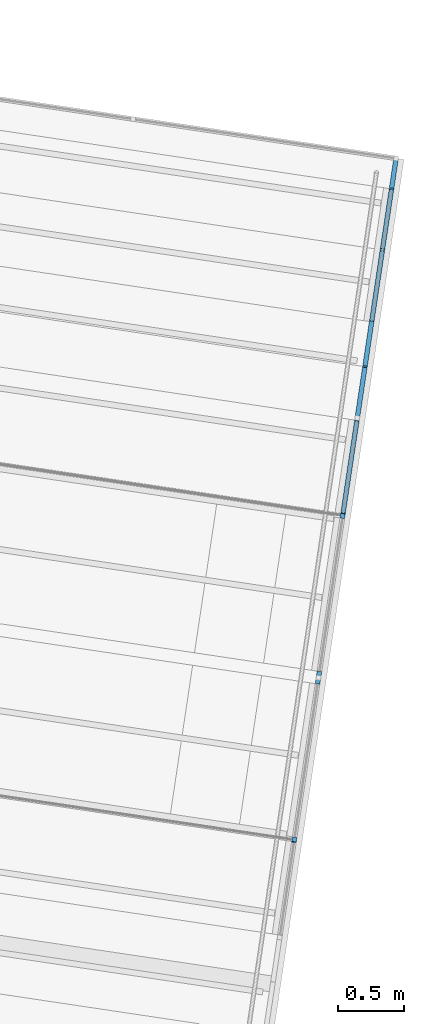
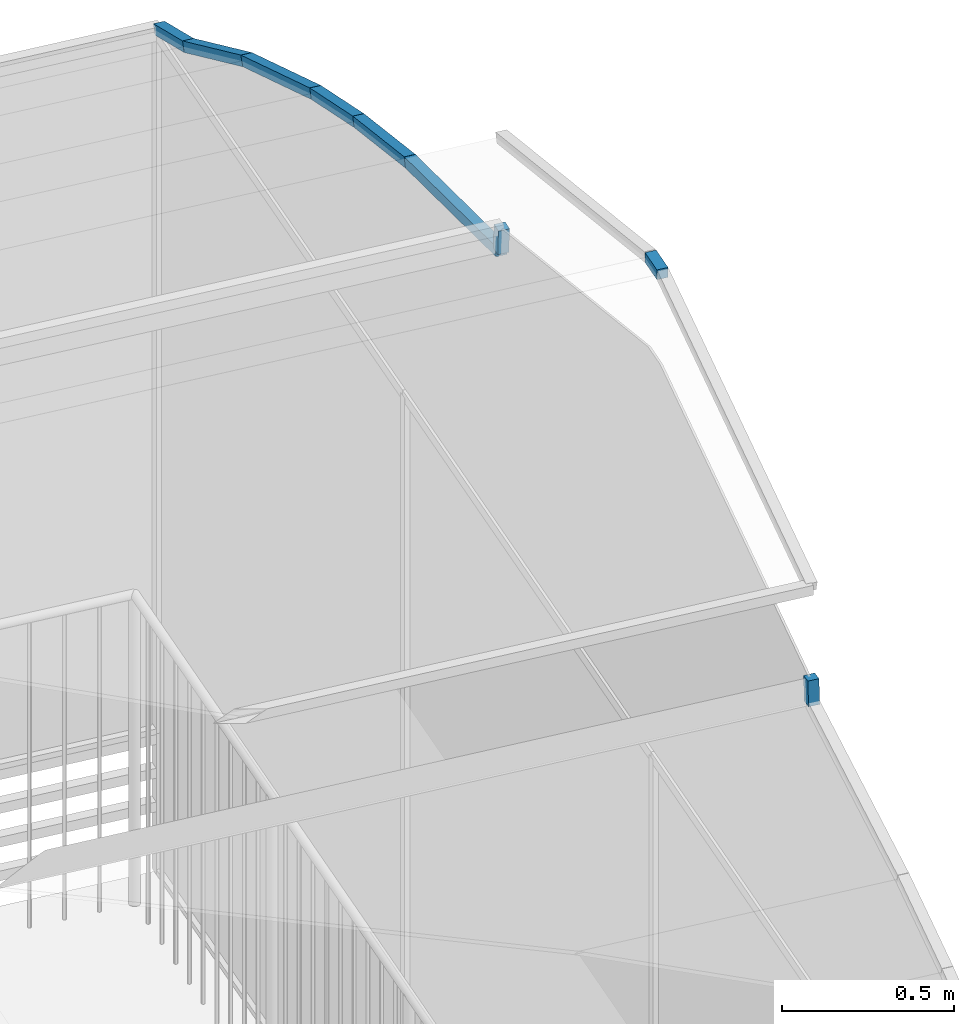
# One storey, part 24 of 34: 9 members, 1 element without a shape of its own.
"""IFC4 building model written with IfcOpenShell, lengths in metres."""

import ifcopenshell
import ifcopenshell.guid

model = None  # the IFC model being written
_history = None  # IfcOwnerHistory: only IFC2X3 demands one
_inside = {}  # id of a spatial element -> (the spatial element, [elements in it])
_under = {}  # id of a project, library or spatial element -> (it, [spatial elements below it])
_declared = {}  # id of a project -> (the project, [libraries it declares])
_typed = {}  # id of a type object -> (the type object, [elements of that type])
_made_of = {}  # id of a material, layer set ... -> (it, [elements and type objects made of it])


def new_model(schema):
    """Start an empty IFC model of exactly this schema.

    Asked for "IFC4X3", IfcOpenShell would pick the latest addendum, in which some entities
    have other attributes; the version numbers below select the first issue.
    IFC2X3 requires an IfcOwnerHistory on every rooted entity: one is made here for all.
    """
    global model, _history
    if schema == "IFC4X3":
        model = ifcopenshell.file(schema_version=(4, 3, 0, 0))
    else:
        model = ifcopenshell.file(schema=schema)
    _inside.clear()
    _under.clear()
    _declared.clear()
    _typed.clear()
    _made_of.clear()
    _history = None
    if model.schema == "IFC2X3":
        org = make("IfcOrganization", Name="unknown")
        user = make(
            "IfcPersonAndOrganization",
            ThePerson=make("IfcPerson", FamilyName="unknown"),
            TheOrganization=org,
        )
        app = make(
            "IfcApplication",
            ApplicationDeveloper=org,
            Version="unknown",
            ApplicationFullName="unknown",
            ApplicationIdentifier="unknown",
        )
        _history = make(
            "IfcOwnerHistory",
            OwningUser=user,
            OwningApplication=app,
            ChangeAction="ADDED",
            CreationDate=0,
        )
    return model


def make(cls, **values):
    """One entity of the class cls with the attributes given. An attribute that is None is left unset."""
    return model.create_entity(
        cls, **{name: value for name, value in values.items() if value is not None}
    )


def rooted(cls, **values):
    """An entity with a GlobalId (a new one), such as an element, a storey or a relation."""
    return make(cls, GlobalId=ifcopenshell.guid.new(), OwnerHistory=_history, **values)


def si_unit(unit_type, name, prefix=None):
    """IfcSIUnit, for example si_unit("LENGTHUNIT", "METRE", prefix="MILLI")."""
    return make("IfcSIUnit", UnitType=unit_type, Prefix=prefix, Name=name)


def assignment(units):
    """IfcUnitAssignment: the units of a project."""
    return None if units is None else make("IfcUnitAssignment", Units=units)


def point(xyz):
    """IfcCartesianPoint."""
    return None if xyz is None else make("IfcCartesianPoint", Coordinates=xyz)


def direction(xyz):
    """IfcDirection."""
    return None if xyz is None else make("IfcDirection", DirectionRatios=xyz)


def frame(location, z_axis=None, x_axis=None):
    """IfcAxis2Placement3D, a coordinate frame: its origin and axes. An axis left out is left unset."""
    return make(
        "IfcAxis2Placement3D",
        Location=point(location),
        Axis=direction(z_axis),
        RefDirection=direction(x_axis),
    )


def origin_with_axes():
    """The frame at (0, 0, 0) with the z axis (0, 0, 1) and the x axis (1, 0, 0) written out."""
    return frame((0.0, 0.0, 0.0), z_axis=(0.0, 0.0, 1.0), x_axis=(1.0, 0.0, 0.0))


def place(relative_to, where):
    """IfcLocalPlacement: puts the frame where relative to a parent placement (None: the world)."""
    return make(
        "IfcLocalPlacement", PlacementRelTo=relative_to, RelativePlacement=where
    )


def context(
    kind, dimensions, precision=None, world=None, true_north=None, identifier=None
):
    """IfcGeometricRepresentationContext, for example the 3D "Model" context."""
    return make(
        "IfcGeometricRepresentationContext",
        ContextIdentifier=identifier,
        ContextType=kind,
        CoordinateSpaceDimension=dimensions,
        Precision=precision,
        WorldCoordinateSystem=world,
        TrueNorth=true_north,
    )


def subcontext(parent, identifier, kind, view, scale=None):
    """IfcGeometricRepresentationSubContext, for example "Body" below "Model"."""
    return make(
        "IfcGeometricRepresentationSubContext",
        ContextIdentifier=identifier,
        ContextType=kind,
        ParentContext=parent,
        TargetScale=scale,
        TargetView=view,
    )


def project(units=None, contexts=None):
    """IfcProject with its units and contexts."""
    return rooted(
        "IfcProject",
        Name="project",
        RepresentationContexts=contexts,
        UnitsInContext=assignment(units),
    )


def spatial(cls, under=None, at=None, **own):
    """A site, building, storey or space (cls), placed at a placement, below another one or the project."""
    s = rooted(cls, ObjectPlacement=at, **own)
    if under is not None:
        _under.setdefault(under.id(), (under, []))[1].append(s)
    return s


def profile(cls, at=None, kind="AREA", **sizes):
    """A parametric profile (cls). Its sizes go by their IFC names, for example OverallWidth=200.0."""
    return make(cls, ProfileType=kind, Position=at, **sizes)


def rectangle(**sizes):
    """IfcRectangleProfileDef."""
    return profile("IfcRectangleProfileDef", **sizes)


def extrude(swept, where, along, depth):
    """IfcExtrudedAreaSolid: the profile swept, set in the frame where, extruded along a direction by depth."""
    return make(
        "IfcExtrudedAreaSolid",
        SweptArea=swept,
        Position=where,
        ExtrudedDirection=direction(along),
        Depth=depth,
    )


def shape(context_of_items, identifier, shape_type, items):
    """IfcShapeRepresentation: the items that make up one representation, for example the "Body"."""
    return make(
        "IfcShapeRepresentation",
        ContextOfItems=context_of_items,
        RepresentationIdentifier=identifier,
        RepresentationType=shape_type,
        Items=items,
    )


def material(Name=None, Category=None):
    """IfcMaterial."""
    return make("IfcMaterial", Name=Name, Category=Category)


def material_profile(
    of_material, cross_section, Name=None, Category=None, Priority=None
):
    """IfcMaterialProfile: a cross section and its material."""
    return make(
        "IfcMaterialProfile",
        Name=Name,
        Material=of_material,
        Profile=cross_section,
        Priority=Priority,
        Category=Category,
    )


def profile_set(profiles, Name=None, composite=None):
    """IfcMaterialProfileSet."""
    return make(
        "IfcMaterialProfileSet",
        Name=Name,
        MaterialProfiles=profiles,
        CompositeProfile=composite,
    )


def profile_usage(for_profile_set, cardinal=None, extent=None):
    """IfcMaterialProfileSetUsage: how a profile set lies along its element."""
    return make(
        "IfcMaterialProfileSetUsage",
        ForProfileSet=for_profile_set,
        CardinalPoint=cardinal,
        ReferenceExtent=extent,
    )


def made_of(thing, what):
    """Note that an element or type object is made of a material, layer set ...; save() writes the relation."""
    if what is not None:
        _made_of.setdefault(what.id(), (what, []))[1].append(thing)
    return thing


def type_object(cls, material=None, **own):
    """A type object (cls), such as IfcWallType, which elements share."""
    return made_of(rooted(cls, **own), material)


def element(
    cls,
    number,
    at=None,
    inside=None,
    cuts=None,
    type_object=None,
    material=None,
    context=None,
    identifier="Body",
    shape_type=None,
    held_by="IfcProductDefinitionShape",
    body=None,
    shapes=None,
    **own,
):
    """One element of the class cls, such as IfcWall. Its Tag is "e" and its number.

    at: its placement. inside: the storey or other place that contains it. cuts: it is an
    opening in that element (IfcRelVoidsElement). A single representation is given by context,
    identifier, shape_type and body (its items); several are given by shapes. held_by: the class
    of the entity that holds the representations. save() writes the other relations.
    """
    e = rooted(cls, Tag="e%d" % number, ObjectPlacement=at, **own)
    if body is not None:
        shapes = [shape(context, identifier, shape_type, body)]
    if shapes is not None:
        e.Representation = make(held_by, Representations=shapes)
    if inside is not None:
        _inside.setdefault(inside.id(), (inside, []))[1].append(e)
    if cuts is not None:
        rooted(
            "IfcRelVoidsElement", RelatingBuildingElement=cuts, RelatedOpeningElement=e
        )
    if type_object is not None:
        _typed.setdefault(type_object.id(), (type_object, []))[1].append(e)
    return made_of(e, material)


def aggregate(whole, parts):
    """IfcRelAggregates: a whole, such as a stair, and the parts it consists of."""
    return rooted("IfcRelAggregates", RelatingObject=whole, RelatedObjects=parts)


def save(model, path):
    """Write the relations noted so far, then the file.

    IfcRelAggregates (storeys below a building ...), IfcRelContainedInSpatialStructure (elements
    in a storey), IfcRelDefinesByType, IfcRelAssociatesMaterial and IfcRelDeclares: one each for
    every whole, place, type object, material and project.
    """
    for whole, parts in _under.values():
        aggregate(whole, parts)
    for where, things in _inside.values():
        rooted(
            "IfcRelContainedInSpatialStructure",
            RelatedElements=things,
            RelatingStructure=where,
        )
    for kind, things in _typed.values():
        rooted("IfcRelDefinesByType", RelatedObjects=things, RelatingType=kind)
    for what, things in _made_of.values():
        rooted("IfcRelAssociatesMaterial", RelatedObjects=things, RelatingMaterial=what)
    for by, libraries in _declared.values():
        rooted("IfcRelDeclares", RelatingContext=by, RelatedDefinitions=libraries)
    model.write(path)


model = new_model("IFC4")

# Units and contexts
model_context = context("Model", 3, precision=1e-05, world=origin_with_axes(), true_north=direction((0.0, 1.0)))
body_context = subcontext(model_context, "Body", "Model", "MODEL_VIEW")
ifc_project = project(units=[si_unit("VOLUMEUNIT", "CUBIC_METRE"), si_unit("LENGTHUNIT", "METRE"), si_unit("AREAUNIT", "SQUARE_METRE")], contexts=[model_context])

# Site, building, storey
site_placement = place(None, origin_with_axes())
site = spatial("IfcSite", under=ifc_project, at=site_placement, Name="Lares · Rua das Mercês · artigo 4771")
building_placement = place(site_placement, frame((12.0, 10.2, 13.9), z_axis=(0.0, 0.0, 1.0), x_axis=(0.989015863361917, -0.147809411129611, 0.0)))
building = spatial("IfcBuilding", under=site, at=building_placement, Name="Casa Sobreposta")
storey_placement = place(building_placement, frame((0.0, 0.0, 3.24), z_axis=(0.0, 0.0, 1.0), x_axis=(1.0, 0.0, 0.0)))
storey = spatial("IfcBuildingStorey", under=building, at=storey_placement, Name="01 · Jardim de inverno", Elevation=17.14)

# Roof, members
ifc_material_1 = material(Name="Vidro / Normalglas", Category="glass")
roof_placement = place(storey_placement, frame((0.0, 0.0, -3.24), z_axis=(0.0, 0.0, 1.0), x_axis=(1.0, 0.0, 0.0)))
roof = element("IfcRoof", 1, at=roof_placement, inside=storey, material=ifc_material_1, Name="Cobertura translúcida da estufa", PredefinedType="BARREL_ROOF")
ifc_material_2 = material(Name="Aço pintado / Stahl lackiert", Category="steel")
ifc_material_profile = material_profile(ifc_material_2, rectangle(XDim=0.035, YDim=0.035))
ifc_profile_set = profile_set([ifc_material_profile], Name="R0.035")
ifc_profile_usage_1 = profile_usage(ifc_profile_set)
member_type = type_object("IfcMemberType", Name="R0.035 / steel", PredefinedType="NOTDEFINED", material=ifc_profile_set)
member_1_placement = place(roof_placement, frame((32.0, 1.21440957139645, 7.21329402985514), z_axis=(0.0, 0.0686229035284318, 0.997642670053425), x_axis=(1.0, 0.0, 0.0)))
member_1 = element("IfcMember", 2, at=member_1_placement, type_object=member_type, material=ifc_profile_usage_1, Name="Arco estufa 32/6", context=body_context, shape_type="SweptSolid", body=[
    extrude(rectangle(XDim=0.035, YDim=0.035), origin_with_axes(), (0.0, 0.0, 1.0), 0.0875893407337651),
])
ifc_profile_usage_2 = profile_usage(ifc_profile_set)
member_2_placement = place(roof_placement, frame((32.0, 2.40274082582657, 7.96518238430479), z_axis=(0.0, 1.0, 0.0), x_axis=(1.0, 0.0, 0.0)))
member_2 = element("IfcMember", 3, at=member_2_placement, type_object=member_type, material=ifc_profile_usage_2, Name="Arco estufa 32/8", context=body_context, shape_type="SweptSolid", body=[
    extrude(rectangle(XDim=0.035, YDim=0.035), origin_with_axes(), (0.0, 0.0, 1.0), 0.0949594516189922),
])
ifc_profile_usage_3 = profile_usage(ifc_profile_set)
member_3_placement = place(roof_placement, frame((32.0, 3.68002089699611, 7.30067689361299), z_axis=(0.0, 0.0651953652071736, -0.997872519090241), x_axis=(1.0, 0.0, 0.0)))
member_3 = element("IfcMember", 4, at=member_3_placement, type_object=member_type, material=ifc_profile_usage_3, Name="Arco estufa 32/10", context=body_context, shape_type="SweptSolid", body=[
    extrude(rectangle(XDim=0.035, YDim=0.035), origin_with_axes(), (0.0, 0.0, 1.0), 0.0875840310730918),
])
ifc_profile_usage_4 = profile_usage(ifc_profile_set)
member_4_placement = place(roof_placement, frame((32.0, 3.68573096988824, 7.21327919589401), z_axis=(0.0, 0.977996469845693, -0.208621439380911), x_axis=(1.0, 0.0, 0.0)))
member_4 = element("IfcMember", 5, at=member_4_placement, type_object=member_type, material=ifc_profile_usage_4, Name="Arco estufa 32/11", context=body_context, shape_type="SweptSolid", body=[
    extrude(rectangle(XDim=0.035, YDim=0.035), origin_with_axes(), (0.0, 0.0, 1.0), 0.737400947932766),
])
ifc_profile_usage_5 = profile_usage(ifc_profile_set)
member_5_placement = place(roof_placement, frame((32.0, 4.40690649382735, 7.05944154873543), z_axis=(0.0, 0.958508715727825, -0.285063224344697), x_axis=(1.0, 0.0, 0.0)))
member_5 = element("IfcMember", 6, at=member_5_placement, type_object=member_type, material=ifc_profile_usage_5, Name="Arco estufa 32/12", context=body_context, shape_type="SweptSolid", body=[
    extrude(rectangle(XDim=0.035, YDim=0.035), origin_with_axes(), (0.0, 0.0, 1.0), 0.426177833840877),
])
ifc_profile_usage_6 = profile_usage(ifc_profile_set)
member_6_placement = place(roof_placement, frame((32.0, 4.81540166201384, 6.93795392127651), z_axis=(0.0, 0.941396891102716, -0.337300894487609), x_axis=(1.0, 0.0, 0.0)))
member_6 = element("IfcMember", 7, at=member_6_placement, type_object=member_type, material=ifc_profile_usage_6, Name="Arco estufa 32/13", context=body_context, shape_type="SweptSolid", body=[
    extrude(rectangle(XDim=0.035, YDim=0.035), origin_with_axes(), (0.0, 0.0, 1.0), 0.362337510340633),
])
ifc_profile_usage_7 = profile_usage(ifc_profile_set)
member_7_placement = place(roof_placement, frame((32.0, 5.15650506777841, 6.8157371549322), z_axis=(0.0, 0.915895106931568, -0.401417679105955), x_axis=(1.0, 0.0, 0.0)))
member_7 = element("IfcMember", 8, at=member_7_placement, type_object=member_type, material=ifc_profile_usage_7, Name="Arco estufa 32/14", context=body_context, shape_type="SweptSolid", body=[
    extrude(rectangle(XDim=0.035, YDim=0.035), origin_with_axes(), (0.0, 0.0, 1.0), 0.596721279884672),
])
ifc_profile_usage_8 = profile_usage(ifc_profile_set)
member_8_placement = place(roof_placement, frame((32.0, 5.70303916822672, 6.57620268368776), z_axis=(0.0, 0.878867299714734, -0.477066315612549), x_axis=(1.0, 0.0, 0.0)))
member_8 = element("IfcMember", 9, at=member_8_placement, type_object=member_type, material=ifc_profile_usage_8, Name="Arco estufa 32/15", context=body_context, shape_type="SweptSolid", body=[
    extrude(rectangle(XDim=0.035, YDim=0.035), origin_with_axes(), (0.0, 0.0, 1.0), 0.52859183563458),
])
ifc_profile_usage_9 = profile_usage(ifc_profile_set)
member_9_placement = place(roof_placement, frame((32.0, 6.16760124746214, 6.3240293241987), z_axis=(0.0, 0.932880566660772, -0.360185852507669), x_axis=(1.0, 0.0, 0.0)))
member_9 = element("IfcMember", 10, at=member_9_placement, type_object=member_type, material=ifc_profile_usage_9, Name="Arco estufa 32/16", context=body_context, shape_type="SweptSolid", body=[
    extrude(rectangle(XDim=0.035, YDim=0.035), origin_with_axes(), (0.0, 0.0, 1.0), 0.249119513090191),
])
aggregate(roof, [member_1, member_2, member_3, member_4, member_5, member_6, member_7, member_8, member_9])

save(model, "model.ifc")
